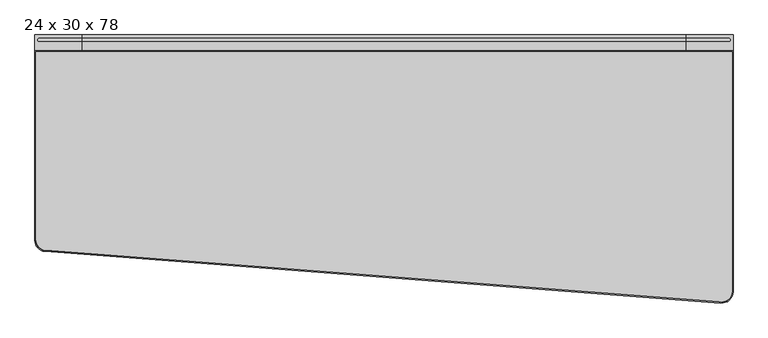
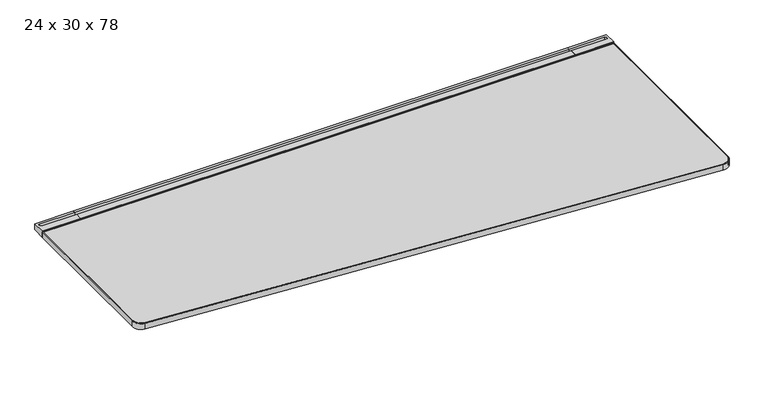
"""IFC4 building model written with IfcOpenShell, lengths in millimetres: furniture geometry, Steelcase - C Scape - Desking - Right Hand Tapered : 24 x 30 x 78."""

from ifc_helpers import new_model, si_unit, point, frame, frame_2d, origin, place, context, project, spatial, polyline, circle_curve, trimmed, segment, composite_curve, outline, extrude, faceted_brep, source, transform, mapped, element, save
from ifc_brep_helpers import plane_surface, cylinder_surface, revolved_surface, advanced_brep


def furniture_24_x_30_x_78_ebe7881e(model_context):
    return source(origin(), model_context, "Body", "SolidModel", [
        advanced_brep(
        [(1846.5927124, -45.3135132, 703.3768), (1846.5927124, -45.3135132, 722.4268341), (1846.5927124, -42.7750923, 722.4268341), (1846.5927124, -42.7750923, 725.932), (1846.5927124, -19.3290527, 725.932), (1846.5927124, -19.3290527, 713.486), (1846.5927124, -8.5111084, 713.486), (1846.5927124, -8.5111084, 725.932), (1846.5927124, 0.0, 725.932), (1846.5927124, 0.0, 705.1038636), (1846.5927124, -3.2278472, 705.1038636), (1846.5927124, -4.0331902, 703.3768), (1979.6125, -45.3135132, 703.3768), (1979.6125, -4.0331902, 703.3768), (1979.6125, -3.2278472, 705.1038636), (1979.6125, 0.0, 705.1038636), (1979.6125, 0.0, 725.932), (1979.6125, -42.7750923, 725.932), (1979.6125, -42.7750923, 722.4268341), (1979.6125, -45.3135132, 722.4268341), (1967.8504272, -8.5111084, 725.932), (1967.8504272, -19.3290527, 725.932), (1967.8504272, -19.3290527, 713.486), (1967.8504272, -8.5111084, 713.486)],
        [
            (0, 1),
            (1, 2),
            (2, 3),
            (3, 4),
            (4, 5),
            (5, 6),
            (6, 7),
            (7, 8),
            (8, 9),
            (9, 10),
            (10, 11),
            (11, 0),
            (12, 13),
            (13, 14),
            (14, 15),
            (15, 16),
            (16, 17),
            (17, 18),
            (18, 19),
            (19, 12),
            (11, 13),
            (12, 0),
            (10, 14),
            (9, 15),
            (8, 16),
            (7, 20),
            (20, 21, circle_curve(frame((1967.8504272, -13.9200806, 725.932), z_axis=(0.0, 0.0, -1.0), x_axis=(-1.0, 0.0, 0.0)), 5.4089722)),
            (21, 4),
            (3, 17),
            (2, 18),
            (1, 19),
            (5, 22),
            (22, 23, circle_curve(frame((1967.8504272, -13.9200806, 713.486), z_axis=(0.0, 0.0, 1.0), x_axis=(-1.0, 0.0, 0.0)), 5.4089722)),
            (23, 6),
            (23, 20),
            (22, 21),
        ],
        [
            plane_surface(frame((1846.5927124, -45.3135132, 703.3768), z_axis=(-1.0, 0.0, 0.0), x_axis=(0.0, 1.0, 0.0))),
            plane_surface(frame((1979.6125, -45.3135132, 703.3768), z_axis=(1.0, 0.0, 0.0), x_axis=(0.0, -1.0, 0.0))),
            plane_surface(frame((1846.5927124, -45.3135132, 703.3768), z_axis=(0.0, 0.0, -1.0), x_axis=(1.0, 0.0, 0.0))),
            plane_surface(frame((1846.5927124, -4.0331902, 703.3768), z_axis=(0.0, 0.9063077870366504, -0.4226182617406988), x_axis=(1.0, 0.0, 0.0))),
            plane_surface(frame((1846.5927124, -3.2278472, 705.1038636), z_axis=(0.0, 0.0, -1.0), x_axis=(1.0, 0.0, 0.0))),
            plane_surface(frame((1846.5927124, 0.0, 705.1038636), z_axis=(0.0, 1.0, 0.0), x_axis=(1.0, 0.0, 0.0))),
            plane_surface(frame((1846.5927124, 0.0, 725.932), z_axis=(0.0, 0.0, 1.0), x_axis=(1.0, 0.0, 0.0))),
            plane_surface(frame((1846.5927124, -42.7750923, 725.932), z_axis=(0.0, -1.0, 0.0), x_axis=(1.0, 0.0, 0.0))),
            plane_surface(frame((1846.5927124, -42.7750923, 722.4268341), z_axis=(0.0, 0.0, 1.0), x_axis=(1.0, 0.0, 0.0))),
            plane_surface(frame((1846.5927124, -45.3135132, 722.4268341), z_axis=(0.0, -1.0, 0.0), x_axis=(1.0, 0.0, 0.0))),
            plane_surface(frame((1967.8504272, -8.5111084, 713.486), z_axis=(0.0, 0.0, 1.0), x_axis=(-1.0, 0.0, 0.0))),
            plane_surface(frame((1846.5927124, -8.5111084, 731.2180541), z_axis=(0.0, -1.0, 0.0), x_axis=(0.0, 0.0, -1.0))),
            revolved_surface(polyline([(1962.441455, -13.9200806, 725.932), (1962.441455, -13.9200806, 713.486)]), (1967.8504272, -13.9200806, 713.486), (0.0, 0.0, 1.0)),
            plane_surface(frame((1967.8504272, -19.3290527, 731.2180541), z_axis=(0.0, 1.0, 0.0), x_axis=(0.0, 0.0, -1.0))),
        ],
        [
            (0, [[1, 2, 3, 4, 5, 6, 7, 8, 9, 10, 11, 12]]),
            (1, [[13, 14, 15, 16, 17, 18, 19, 20]]),
            (2, [[21, -13, 22, -12]]),
            (3, [[23, -14, -21, -11]]),
            (4, [[24, -15, -23, -10]]),
            (5, [[25, -16, -24, -9]]),
            (6, [[-25, -8, 26, 27, 28, -4, 29, -17]]),
            (7, [[30, -18, -29, -3]]),
            (8, [[31, -19, -30, -2]]),
            (9, [[-22, -20, -31, -1]]),
            (10, [[-6, 32, 33, 34]]),
            (11, [[35, -26, -7, -34]]),
            (12, [[36, -27, -35, -33]]),
            (13, [[-5, -28, -36, -32]]),
        ],
    ),
        faceted_brep([(1960.5617368, -565.0752923, 700.7093833), (1960.5617368, -565.0752923, 703.3768), (1846.5927124, -565.0752923, 703.3768), (1846.5927124, -565.0752923, 679.3263935), (1862.2268699, -565.0752923, 679.3263935), (1864.8474121, -565.0752923, 693.4200291), (1946.2866272, -565.0752923, 693.4200291), (1960.5617368, -4.0331902, 700.7093833), (1946.2866272, -4.0331902, 693.4200291), (1864.8474121, -4.0331902, 693.4200291), (1852.9411653, -4.0331902, 629.3866), (1846.5927124, -4.0331902, 629.3866), (1846.5927124, -4.0331902, 703.3768), (1960.5617368, -4.0331902, 703.3768), (1860.0615949, -376.5599397, 667.6812472), (1852.9411653, -364.1172546, 629.3866), (1846.5927124, -364.1172546, 629.3866), (1846.5927124, -376.5599397, 667.6812472)], [[[0, 1, 2, 3, 4, 5, 6]], [[7, 8, 9, 10, 11, 12, 13]], [[6, 8, 7, 0]], [[5, 9, 8, 6]], [[9, 5, 4, 14, 15, 10]], [[10, 15, 16, 11]], [[11, 16, 17, 3, 2, 12]], [[1, 13, 12, 2]], [[0, 7, 13, 1]], [[14, 4, 3, 17]], [[17, 16, 15, 14]]]),
        extrude(outline(composite_curve([segment(polyline([(-293.5216187, 657.3775839), (-559.0022133, 680.1371551)]), True, "CONTINUOUS"), segment(trimmed(circle_curve(frame_2d((-558.7581271, 682.9843154)), 2.8576039), [point((-559.0022133, 680.1371551))], [point((-561.5383043, 682.3236226))], False, "CARTESIAN"), True, "CONTINUOUS"), segment(polyline([(-561.5383043, 682.3236226), (-566.0887542, 701.4717905), (-557.8334441, 701.4717905), (-557.8334441, 703.3768), (-442.6683806, 703.3768), (-442.6683806, 696.3917953), (-318.2108611, 696.3917953), (-318.2108611, 703.3768), (-293.5216187, 703.3768), (-293.5216187, 657.3775839)]), True, "CONTINUOUS")], self_intersect=False)), frame((954.024, 0.0, 0.0), z_axis=(1.0, 0.0, 0.0), x_axis=(0.0, 1.0, 0.0)), (0.0, 0.0, 1.0), 73.152),
        advanced_brep(
        [(134.6072876, -45.3135132, 703.3768), (134.6072876, -4.0331902, 703.3768), (134.6072876, -3.2278472, 705.1038636), (134.6072876, 0.0, 705.1038636), (134.6072876, 0.0, 725.932), (134.6072876, -8.5111084, 725.932), (134.6072876, -8.5111084, 713.486), (134.6072876, -19.3290527, 713.486), (134.6072876, -19.3290527, 725.932), (134.6072876, -42.7750923, 725.932), (134.6072876, -42.7750923, 722.4268341), (134.6072876, -45.3135132, 722.4268341), (1.5875, -45.3135132, 703.3768), (1.5875, -45.3135132, 722.4268341), (1.5875, -42.7750923, 722.4268341), (1.5875, -42.7750923, 725.932), (1.5875, 0.0, 725.932), (1.5875, 0.0, 705.1038636), (1.5875, -3.2278472, 705.1038636), (1.5875, -4.0331902, 703.3768), (13.3495728, -19.3290527, 725.932), (13.3495728, -8.5111084, 725.932), (13.3495728, -8.5111084, 713.486), (13.3495728, -19.3290527, 713.486)],
        [
            (0, 1),
            (1, 2),
            (2, 3),
            (3, 4),
            (4, 5),
            (5, 6),
            (6, 7),
            (7, 8),
            (8, 9),
            (9, 10),
            (10, 11),
            (11, 0),
            (12, 13),
            (13, 14),
            (14, 15),
            (15, 16),
            (16, 17),
            (17, 18),
            (18, 19),
            (19, 12),
            (0, 12),
            (19, 1),
            (18, 2),
            (17, 3),
            (16, 4),
            (15, 9),
            (8, 20),
            (20, 21, circle_curve(frame((13.3495728, -13.9200806, 725.932), z_axis=(0.0, 0.0, -1.0), x_axis=(1.0, 0.0, 0.0)), 5.4089722)),
            (21, 5),
            (14, 10),
            (13, 11),
            (6, 22),
            (22, 23, circle_curve(frame((13.3495728, -13.9200806, 713.486), z_axis=(0.0, 0.0, 1.0), x_axis=(1.0, 0.0, 0.0)), 5.4089722)),
            (23, 7),
            (21, 22),
            (20, 23),
        ],
        [
            plane_surface(frame((134.6072876, -45.3135132, 703.3768), z_axis=(1.0, 0.0, 0.0), x_axis=(0.0, 1.0, 0.0))),
            plane_surface(frame((1.5875, -45.3135132, 703.3768), z_axis=(-1.0, 0.0, 0.0), x_axis=(0.0, -1.0, 0.0))),
            plane_surface(frame((134.6072876, -45.3135132, 703.3768), z_axis=(0.0, 0.0, -1.0), x_axis=(-1.0, 0.0, 0.0))),
            plane_surface(frame((134.6072876, -4.0331902, 703.3768), z_axis=(0.0, 0.9063077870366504, -0.4226182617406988), x_axis=(-1.0, 0.0, 0.0))),
            plane_surface(frame((134.6072876, -3.2278472, 705.1038636), z_axis=(0.0, 0.0, -1.0), x_axis=(-1.0, 0.0, 0.0))),
            plane_surface(frame((134.6072876, 0.0, 705.1038636), z_axis=(0.0, 1.0, 0.0), x_axis=(-1.0, 0.0, 0.0))),
            plane_surface(frame((134.6072876, 0.0, 725.932), z_axis=(0.0, 0.0, 1.0), x_axis=(-1.0, 0.0, 0.0))),
            plane_surface(frame((134.6072876, -42.7750923, 725.932), z_axis=(0.0, -1.0, 0.0), x_axis=(-1.0, 0.0, 0.0))),
            plane_surface(frame((134.6072876, -42.7750923, 722.4268341), z_axis=(0.0, 0.0, 1.0), x_axis=(-1.0, 0.0, 0.0))),
            plane_surface(frame((134.6072876, -45.3135132, 722.4268341), z_axis=(0.0, -1.0, 0.0), x_axis=(-1.0, 0.0, 0.0))),
            plane_surface(frame((13.3495728, -8.5111084, 713.486), z_axis=(0.0, 0.0, 1.0), x_axis=(1.0, 0.0, 0.0))),
            plane_surface(frame((134.6072876, -8.5111084, 731.2180541), z_axis=(0.0, -1.0, 0.0), x_axis=(0.0, 0.0, -1.0))),
            revolved_surface(polyline([(18.758545, -13.9200806, 725.932), (18.758545, -13.9200806, 713.486)]), (13.3495728, -13.9200806, 713.486), (0.0, 0.0, 1.0)),
            plane_surface(frame((13.3495728, -19.3290527, 731.2180541), z_axis=(0.0, 1.0, 0.0), x_axis=(0.0, 0.0, -1.0))),
        ],
        [
            (0, [[1, 2, 3, 4, 5, 6, 7, 8, 9, 10, 11, 12]]),
            (1, [[13, 14, 15, 16, 17, 18, 19, 20]]),
            (2, [[-1, 21, -20, 22]]),
            (3, [[-2, -22, -19, 23]]),
            (4, [[-3, -23, -18, 24]]),
            (5, [[-4, -24, -17, 25]]),
            (6, [[-16, 26, -9, 27, 28, 29, -5, -25]]),
            (7, [[-10, -26, -15, 30]]),
            (8, [[-11, -30, -14, 31]]),
            (9, [[-12, -31, -13, -21]]),
            (10, [[32, 33, 34, -7]]),
            (11, [[-32, -6, -29, 35]]),
            (12, [[-33, -35, -28, 36]]),
            (13, [[-34, -36, -27, -8]]),
        ],
    ),
        faceted_brep([(20.6382632, -565.0752923, 700.7093833), (34.9133728, -565.0752923, 693.4200291), (116.3525879, -565.0752923, 693.4200291), (118.9731301, -565.0752923, 679.3263935), (134.6072876, -565.0752923, 679.3263935), (134.6072876, -565.0752923, 703.3768), (20.6382632, -565.0752923, 703.3768), (20.6382632, -4.0331902, 700.7093833), (20.6382632, -4.0331902, 703.3768), (134.6072876, -4.0331902, 703.3768), (134.6072876, -4.0331902, 629.3866), (128.2588347, -4.0331902, 629.3866), (116.3525879, -4.0331902, 693.4200291), (34.9133728, -4.0331902, 693.4200291), (128.2588347, -364.1172546, 629.3866), (121.1384051, -376.5599397, 667.6812472), (134.6072876, -364.1172546, 629.3866), (134.6072876, -376.5599397, 667.6812472)], [[[0, 1, 2, 3, 4, 5, 6]], [[7, 8, 9, 10, 11, 12, 13]], [[1, 0, 7, 13]], [[2, 1, 13, 12]], [[12, 11, 14, 15, 3, 2]], [[11, 10, 16, 14]], [[10, 9, 5, 4, 17, 16]], [[6, 5, 9, 8]], [[0, 6, 8, 7]], [[15, 17, 4, 3]], [[17, 15, 14, 16]]]),
        extrude(outline(polyline([(-8.5111084, 725.932), (0.0, 725.932), (0.0, 705.1038636), (-3.2278472, 705.1038636), (-4.0331902, 703.3768), (-45.3135132, 703.3768), (-45.3135132, 722.4268341), (-42.7750923, 722.4268341), (-42.7750923, 725.932), (-19.3290527, 725.932), (-19.3290527, 713.486), (-8.5111084, 713.486), (-8.5111084, 725.932)])), frame((134.6072876, 0.0, 0.0), z_axis=(1.0, 0.0, 0.0), x_axis=(0.0, 1.0, 0.0)), (0.0, 0.0, 1.0), 1711.9854248),
        extrude(outline(polyline([(134.6072876, -293.5216187), (134.6072876, -4.0331902), (1846.5927124, -4.0331902), (1846.5927124, -293.5216187), (134.6072876, -293.5216187)])), frame((0.0, 0.0, 629.3866), z_axis=(0.0, 0.0, 1.0), x_axis=(1.0, 0.0, 0.0)), (0.0, 0.0, 1.0), 73.9902),
        extrude(outline(composite_curve([segment(polyline([(4.6355, -48.3660689), (1976.5645, -48.3660689), (1976.5645, -727.4584074)]), True, "CONTINUOUS"), segment(trimmed(circle_curve(frame_2d((1947.1399152, -727.4584074)), 29.4245848), [point((1976.5645, -727.4584074))], [point((1939.9992261, -756.0034025))], False, "CARTESIAN"), True, "CONTINUOUS"), segment(polyline([(1939.9992261, -756.0034025), (32.0559121, -610.6253514)]), True, "CONTINUOUS"), segment(trimmed(circle_curve(frame_2d((35.0928094, -580.3198247)), 30.4573094), [point((32.0559121, -610.6253514))], [point((4.6355, -580.3198247))], False, "CARTESIAN"), True, "CONTINUOUS"), segment(polyline([(4.6355, -580.3198247), (4.6355, -48.3660689)]), True, "CONTINUOUS")], self_intersect=False)), frame((0.0, 0.0, 703.3768), z_axis=(0.0, 0.0, 1.0), x_axis=(1.0, 0.0, 0.0)), (0.0, 0.0, 1.0), 20.5232),
        advanced_brep(
        [(1979.6125, -45.3150923, 703.3768), (1979.6125, -45.3150923, 723.9), (1979.6125, -727.9415979, 723.9), (1979.6125, -727.9415979, 703.3768), (1976.5615234, -48.3660689, 723.9), (1976.5615234, -48.3660689, 703.3768), (1976.5615234, -727.9415979, 703.3768), (1976.5615234, -727.9415979, 723.9), (1944.8527611, -759.548622, 703.3768), (1944.8527611, -759.548622, 723.9), (1945.1419782, -756.5113845, 723.9), (1945.1419782, -756.5113845, 703.3768), (28.8741289, -613.3822243, 723.9), (28.8741289, -613.3822243, 703.3768), (29.1062078, -610.3400873, 703.3768), (29.1062078, -610.3400873, 723.9), (1.5875, -583.3738283, 723.9), (1.5875, -45.3150923, 723.9), (4.6384766, -583.3738283, 723.9), (4.6384766, -48.3660689, 723.9), (1.5875, -583.3738283, 703.3768), (1.5875, -45.3150923, 703.3768), (4.6384766, -583.3738283, 703.3768), (4.6384766, -48.3660689, 703.3768)],
        [
            (0, 1),
            (1, 2),
            (2, 3),
            (3, 0),
            (4, 5),
            (5, 6),
            (6, 7),
            (7, 4),
            (8, 3, circle_curve(frame((1947.8625, -727.9415979, 703.3768), z_axis=(0.0, 0.0, 1.0), x_axis=(1.0, 0.0, 0.0)), 31.75)),
            (2, 9, circle_curve(frame((1947.8625, -727.9415979, 723.9), z_axis=(0.0, 0.0, -1.0), x_axis=(1.0, 0.0, 0.0)), 31.75)),
            (9, 8),
            (10, 7, circle_curve(frame((1947.8625, -727.9415979, 723.9), z_axis=(0.0, 0.0, 1.0), x_axis=(1.0, 0.0, 0.0)), 28.6990234)),
            (6, 11, circle_curve(frame((1947.8625, -727.9415979, 703.3768), z_axis=(0.0, 0.0, -1.0), x_axis=(1.0, 0.0, 0.0)), 28.6990234)),
            (11, 10),
            (9, 12),
            (12, 13),
            (13, 8),
            (11, 14),
            (14, 15),
            (15, 10),
            (16, 12, circle_curve(frame((31.7316405, -583.3738283, 723.9), z_axis=(0.0, 0.0, 1.0), x_axis=(-0.09479492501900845, -0.9954968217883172, 0.0)), 30.1441405)),
            (1, 17),
            (17, 16),
            (15, 18, circle_curve(frame((31.7316405, -583.3738283, 723.9), z_axis=(0.0, 0.0, -1.0), x_axis=(-0.09479492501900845, -0.9954968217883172, 0.0)), 27.0931639)),
            (18, 19),
            (19, 4),
            (20, 13, circle_curve(frame((31.7316405, -583.3738283, 703.3768), z_axis=(0.0, 0.0, 1.0), x_axis=(-0.09479492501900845, -0.9954968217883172, 0.0)), 30.1441405)),
            (16, 20),
            (20, 21),
            (21, 0),
            (22, 14, circle_curve(frame((31.7316405, -583.3738283, 703.3768), z_axis=(0.0, 0.0, 1.0), x_axis=(-0.09479492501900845, -0.9954968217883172, 0.0)), 27.0931639)),
            (5, 23),
            (23, 22),
            (22, 18),
            (17, 21),
            (23, 19),
        ],
        [
            plane_surface(frame((1979.6125, -45.3150923, 723.9), z_axis=(1.0, 0.0, 0.0), x_axis=(0.0, -1.0, 0.0))),
            plane_surface(frame((1976.5615234, -48.3660689, 703.3768), z_axis=(-1.0, 0.0, 0.0), x_axis=(0.0, -1.0, 0.0))),
            cylinder_surface(frame((1947.8625, -727.9415979, 0.0), z_axis=(0.0, 0.0, -1.0), x_axis=(1.0, 0.0, 0.0)), 31.75),
            revolved_surface(polyline([(1976.5615234, -727.9415979, 703.3768), (1976.5615234, -727.9415979, 723.9)]), (1947.8625, -727.9415979, 0.0), (0.0, 0.0, -1.0)),
            plane_surface(frame((1944.8527611, -759.548622, 723.9), z_axis=(-0.07606708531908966, -0.9971027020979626, 0.0), x_axis=(-0.9971027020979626, 0.07606708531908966, 0.0))),
            plane_surface(frame((1945.1420293, -756.5108479, 703.3768), z_axis=(0.07606708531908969, 0.9971027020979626, 0.0), x_axis=(-0.9971027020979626, 0.07606708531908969, 0.0))),
            plane_surface(frame((31.7316405, -583.3738283, 723.9), z_axis=(0.0, 0.0, 1.0), x_axis=(-0.09479492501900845, -0.9954968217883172, 0.0))),
            cylinder_surface(frame((31.7316405, -583.3738283, 0.0), z_axis=(0.0, 0.0, -1.0), x_axis=(-0.09479492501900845, -0.9954968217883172, 0.0)), 30.1441405),
            plane_surface(frame((31.7316405, -583.3738283, 703.3768), z_axis=(0.0, 0.0, -1.0), x_axis=(-0.09479492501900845, -0.9954968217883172, 0.0))),
            revolved_surface(polyline([(29.163346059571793, -610.34498685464, 703.3768), (29.163346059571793, -610.34498685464, 723.9)]), (31.7316405, -583.3738283, 0.0), (0.0, 0.0, -1.0)),
            plane_surface(frame((1.5875, -583.3738283, 723.9), z_axis=(-1.0, 0.0, 0.0), x_axis=(0.0, 1.0, 0.0))),
            plane_surface(frame((4.6384766, -583.3738283, 703.3768), z_axis=(1.0, 0.0, 0.0), x_axis=(0.0, 1.0, 0.0))),
            plane_surface(frame((1.5875, -45.3150923, 723.9), z_axis=(0.0, 1.0, 0.0), x_axis=(1.0, 0.0, 0.0))),
            plane_surface(frame((4.6384766, -48.3660689, 703.3768), z_axis=(0.0, -1.0, 0.0), x_axis=(1.0, 0.0, 0.0))),
        ],
        [
            (0, [[1, 2, 3, 4]]),
            (1, [[5, 6, 7, 8]]),
            (2, [[9, -3, 10, 11]]),
            (3, [[12, -7, 13, 14]]),
            (4, [[-11, 15, 16, 17]]),
            (5, [[-14, 18, 19, 20]]),
            (6, [[21, -15, -10, -2, 22, 23], [-8, -12, -20, 24, 25, 26]]),
            (7, [[27, -16, -21, 28]]),
            (8, [[-4, -9, -17, -27, 29, 30], [31, -18, -13, -6, 32, 33]]),
            (9, [[-24, -19, -31, 34]]),
            (10, [[-28, -23, 35, -29]]),
            (11, [[-34, -33, 36, -25]]),
            (12, [[-35, -22, -1, -30]]),
            (13, [[-36, -32, -5, -26]]),
        ],
    ),
    ])


if __name__ == "__main__":
    model = new_model("IFC4")
    model_context = context("Model", 3, world=origin())
    ifc_project = project(units=[si_unit("LENGTHUNIT", "METRE", prefix="MILLI")], contexts=[model_context])
    site = spatial("IfcSite", under=ifc_project)
    building = spatial("IfcBuilding", under=site)
    placement = place(None, origin())
    furniture_24_x_30_x_78_shape = furniture_24_x_30_x_78_ebe7881e(model_context)
    element("IfcFurniture", 1, ObjectType="Steelcase - C Scape - Desking - Right Hand Tapered : 24 x 30 x 78", at=placement, inside=building, context=model_context, shape_type="MappedRepresentation", body=[
        mapped(furniture_24_x_30_x_78_shape, transform((0.0, 0.0, 0.0), x_axis=(1.0, 0.0, 0.0), y_axis=(0.0, 1.0, 0.0), z_axis=(0.0, 0.0, 1.0))),
    ])
    save(model, "model.ifc")
